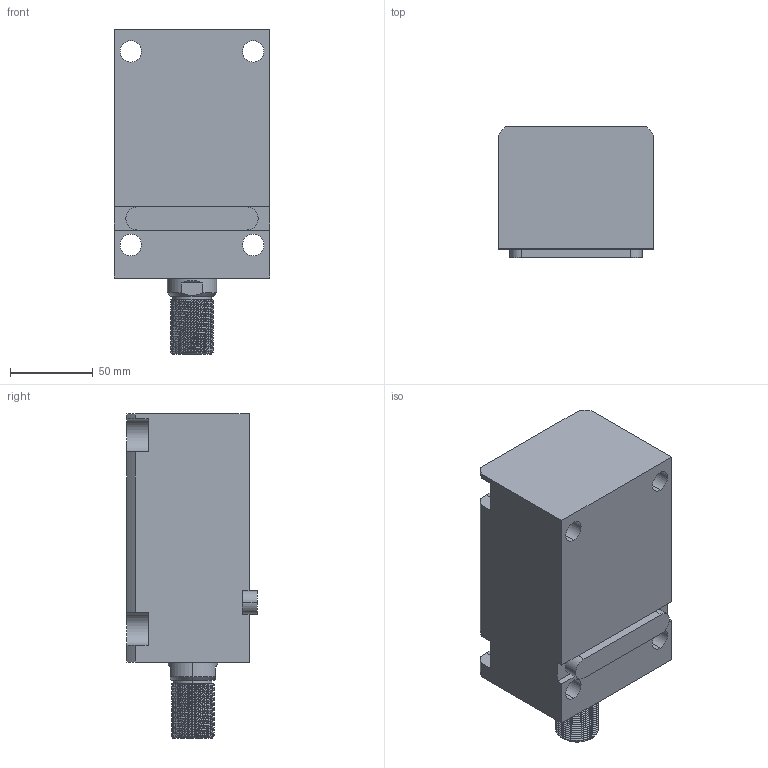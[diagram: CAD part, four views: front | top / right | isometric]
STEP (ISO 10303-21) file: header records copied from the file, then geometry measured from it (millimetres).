
FILE_DESCRIPTION (( 'STEP AP203' ), '1' );
FILE_NAME ('CHTB-LA50-90W.STEP', '2018-05-18T01:59:20', ( '' ), ( '' ), 'SwSTEP 2.0', 'SolidWorks 2015', '' );
FILE_SCHEMA (( 'CONFIG_CONTROL_DESIGN' ));
Length unit declared in the file: millimetre
Products named in the file (4): CHTM-SDMA50QG; CHTB-LA50-90W; 掛极LA50-90W; 活塞杆LA50-90W
Assembly tree (3 placements, depth 2):
  CHTB-LA50-90W
    掛极LA50-90W
    活塞杆LA50-90W
    CHTM-SDMA50QG
Bounding box: 94 x 79 x 196 mm (x, y, z)
Volume: 899228.7 mm3; surface area: 139217.9 mm2
Topology: 3 solids, 3 shells, 244 faces, 670 edges, 447 vertices
Faces by surface type: cylinder 136, plane 55, cone 21, bspline 16, torus 16
Entity records: 15046 total; most frequent: CARTESIAN_POINT 8903, ORIENTED_EDGE 1332, DIRECTION 1073, EDGE_CURVE 666, VERTEX_POINT 447, AXIS2_PLACEMENT_3D 416, EDGE_LOOP 277, ADVANCED_FACE 244
